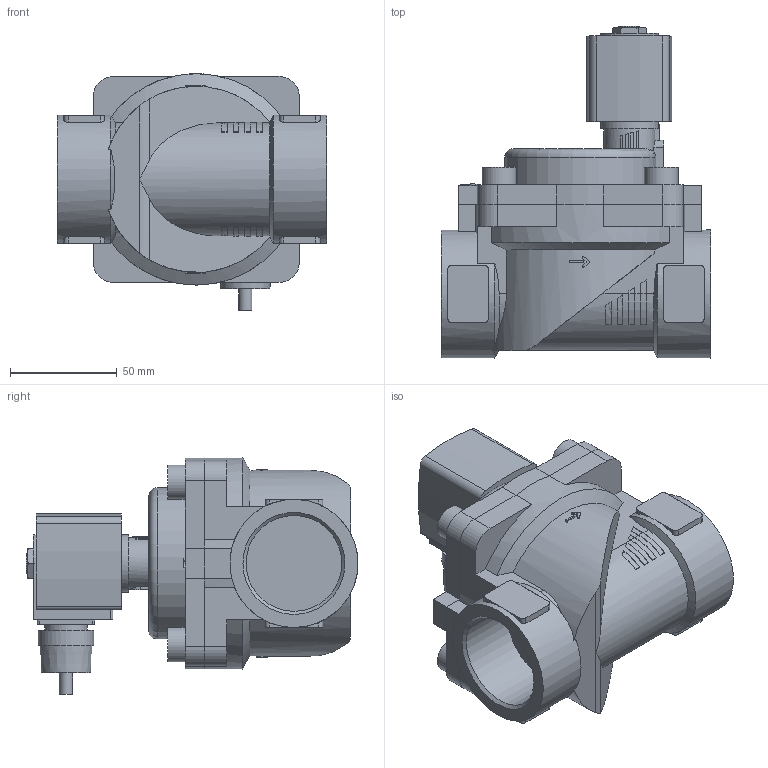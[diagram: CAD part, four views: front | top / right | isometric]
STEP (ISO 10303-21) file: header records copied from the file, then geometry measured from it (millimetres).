
FILE_DESCRIPTION(/* description */ ('STEP AP214'),/* implementation_level */ '2;1');
FILE_NAME(/* name */ '6281-384761-2_2-Way_Solenoid_Valve__Servo-assisted__General_Purpose',/* time_stamp */ '2024-09-04T15:14:39+02:00',/* author */ ('License CC BY-ND 4.0'),/* organization */ ('CADENAS'),/* preprocessor_version */ 'ST-DEVELOPER v19.3',/* originating_system */ 'PARTsolutions',/* authorisation */ ' ');
FILE_SCHEMA (('AUTOMOTIVE_DESIGN {1 0 10303 214 3 1 1}'));
Length unit declared in the file: millimetre
Products named in the file (4): 6281-384761-2/2-Way Solenoid Valve, Servo-assisted, General Purpose; 5281ev400MS2/2-Wege-Magnetventil mit Servomembran-Deckel 99 ; 6213-40G1_1/2MS-Gehaeuse-; AC10ex-6ATEXKabelPlan-Coil
Assembly tree (3 placements, depth 2):
  6281-384761-2/2-Way Solenoid Valve, Servo-assisted, General Purpose
    5281ev400MS2/2-Wege-Magnetventil mit Servomembran-Deckel 99 
    6213-40G1_1/2MS-Gehaeuse-
    AC10ex-6ATEXKabelPlan-Coil
Bounding box: 126 x 155.5 x 110.8 mm (x, y, z)
Volume: 703943.3 mm3; surface area: 97033.1 mm2
Topology: 3 solids, 3 shells, 305 faces, 802 edges, 530 vertices
Faces by surface type: plane 190, cylinder 99, cone 15, torus 1
Full cylindrical faces by diameter (mm): 6.2 x1, 9.74 x1, 16 x4, 20 x1, 26 x1, 27 x1, 44.845 x2, 60 x2
Entity records: 10409 total; most frequent: CARTESIAN_POINT 1882, DIRECTION 1572, ORIENTED_EDGE 1554, EDGE_CURVE 777, AXIS2_PLACEMENT_3D 556, VERTEX_POINT 522, LINE 460, VECTOR 460
